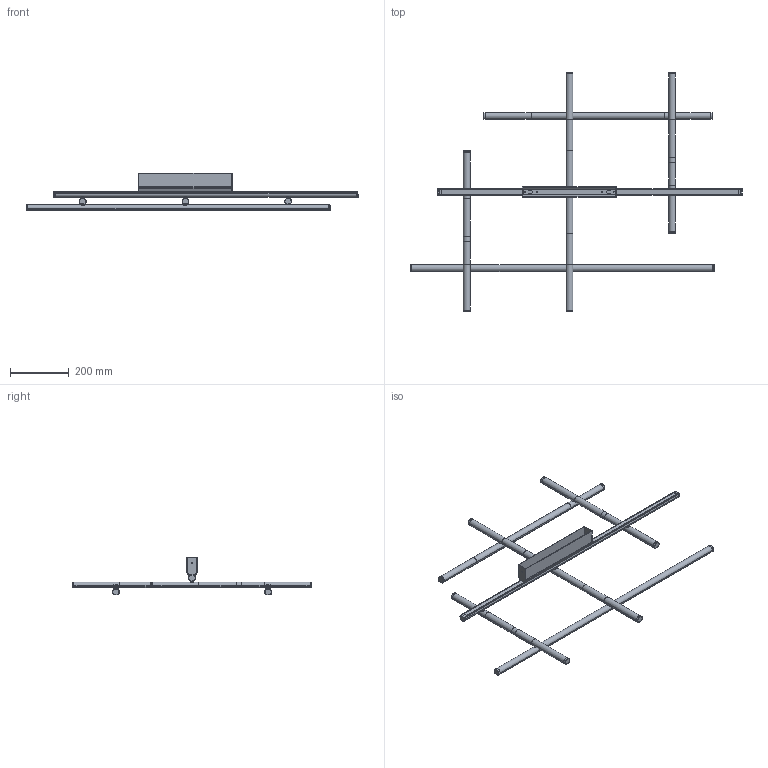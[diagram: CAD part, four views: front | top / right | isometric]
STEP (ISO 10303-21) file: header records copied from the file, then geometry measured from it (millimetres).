
FILE_DESCRIPTION(/* description */ (''),/* implementation_level */ '2;1');
FILE_NAME(/* name */ 'P028__~1',/* time_stamp */ '2024-06-28T17:21:16+02:00',/* author */ (''),/* organization */ (''),/* preprocessor_version */ 'ST-DEVELOPER v16.5',/* originating_system */ '',/* authorisation */ '');
FILE_SCHEMA (('AUTOMOTIVE_DESIGN'));
Length unit declared in the file: millimetre
Products named in the file (1): Document
Bounding box: 1131.82 x 818 x 127.57 mm (x, y, z)
Volume: 1636255.3 mm3; surface area: 732621.7 mm2
Topology: 20 solids, 32 shells, 1584 faces, 3694 edges, 2114 vertices
Faces by surface type: bspline 1050, plane 534
Entity records: 52070 total; most frequent: CARTESIAN_POINT 30245, ORIENTED_EDGE 7260, EDGE_CURVE 3654, VERTEX_POINT 2114, B_SPLINE_CURVE_WITH_KNOTS 2027, EDGE_LOOP 1614, ADVANCED_FACE 1584, FACE_OUTER_BOUND 1584
